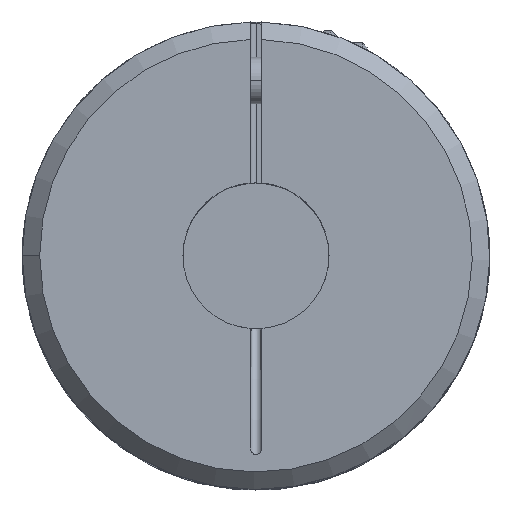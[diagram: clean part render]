
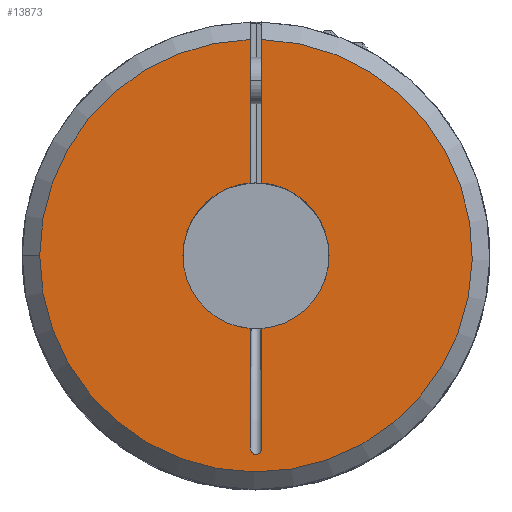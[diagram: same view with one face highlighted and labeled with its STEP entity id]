
A CAD part, top view. The second image highlights one B-rep face of the part: STEP entity #13873.
In plain terms, the highlighted planar face has unit normal (0, 0, 1).
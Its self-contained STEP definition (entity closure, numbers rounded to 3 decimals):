
#3308=CARTESIAN_POINT('',(0.,0.,57.));
#3309=DIRECTION('',(0.,0.,-1.));
#3310=DIRECTION('',(-0.08,-0.997,0.));
#3311=AXIS2_PLACEMENT_3D('',#3308,#3309,#3310);
#3313=DIRECTION('',(0.,-1.,0.));
#3314=VECTOR('',#3313,20.403);
#3315=CARTESIAN_POINT('',(-1.,-12.46,57.));
#3316=LINE('',#3315,#3314);
#3317=CARTESIAN_POINT('',(-1.,-32.863,57.));
#3318=CARTESIAN_POINT('',(-1.,-32.945,57.));
#3319=CARTESIAN_POINT('',(-0.985,-33.104,57.));
#3320=CARTESIAN_POINT('',(-0.92,-33.33,57.));
#3321=CARTESIAN_POINT('',(-0.817,-33.533,57.));
#3322=CARTESIAN_POINT('',(-0.685,-33.702,57.));
#3323=CARTESIAN_POINT('',(-0.53,-33.836,57.));
#3324=CARTESIAN_POINT('',(-0.361,-33.93,57.));
#3325=CARTESIAN_POINT('',(-0.182,-33.987,57.));
#3326=CARTESIAN_POINT('',(0.,-34.006,57.));
#3327=CARTESIAN_POINT('',(0.182,-33.987,57.));
#3328=CARTESIAN_POINT('',(0.361,-33.93,57.));
#3329=CARTESIAN_POINT('',(0.53,-33.836,57.));
#3330=CARTESIAN_POINT('',(0.685,-33.702,57.));
#3331=CARTESIAN_POINT('',(0.817,-33.533,57.));
#3332=CARTESIAN_POINT('',(0.92,-33.33,57.));
#3333=CARTESIAN_POINT('',(0.985,-33.104,57.));
#3334=CARTESIAN_POINT('',(1.,-32.945,57.));
#3335=CARTESIAN_POINT('',(1.,-32.863,57.));
#3337=DIRECTION('',(0.,-1.,0.));
#3338=VECTOR('',#3337,20.403);
#3339=CARTESIAN_POINT('',(1.,-12.46,57.));
#3340=LINE('',#3339,#3338);
#3341=CARTESIAN_POINT('',(0.,0.,57.));
#3342=DIRECTION('',(0.,0.,-1.));
#3343=DIRECTION('',(0.08,0.997,0.));
#3344=AXIS2_PLACEMENT_3D('',#3341,#3342,#3343);
#3346=DIRECTION('',(0.,-1.,0.));
#3347=VECTOR('',#3346,24.527);
#3348=CARTESIAN_POINT('',(1.,36.986,57.));
#3349=LINE('',#3348,#3347);
#3350=DIRECTION('',(0.,-1.,0.));
#3351=VECTOR('',#3350,24.527);
#3352=CARTESIAN_POINT('',(-1.,36.986,57.));
#3353=LINE('',#3352,#3351);
#3585=CARTESIAN_POINT('',(0.,0.,57.));
#3586=DIRECTION('',(0.,0.,-1.));
#3587=DIRECTION('',(-1.,0.,0.));
#3588=AXIS2_PLACEMENT_3D('',#3585,#3586,#3587);
#3611=CARTESIAN_POINT('',(0.,0.,57.));
#3612=DIRECTION('',(0.,0.,1.));
#3613=DIRECTION('',(-1.,0.,0.));
#3614=AXIS2_PLACEMENT_3D('',#3611,#3612,#3613);
#7852=VERTEX_POINT('',#3317);
#7853=VERTEX_POINT('',#3335);
#7862=CARTESIAN_POINT('',(-37.,0.,57.));
#7863=CARTESIAN_POINT('',(-1.,36.986,57.));
#7864=VERTEX_POINT('',#7862);
#7865=VERTEX_POINT('',#7863);
#7872=CARTESIAN_POINT('',(1.,36.986,57.));
#7873=VERTEX_POINT('',#7872);
#7926=CARTESIAN_POINT('',(-1.,-12.46,57.));
#7927=CARTESIAN_POINT('',(-1.,12.46,57.));
#7928=VERTEX_POINT('',#7926);
#7929=VERTEX_POINT('',#7927);
#7930=CARTESIAN_POINT('',(1.,12.46,57.));
#7931=CARTESIAN_POINT('',(1.,-12.46,57.));
#7932=VERTEX_POINT('',#7930);
#7933=VERTEX_POINT('',#7931);
#13851=CARTESIAN_POINT('',(0.,0.,57.));
#13852=DIRECTION('',(0.,0.,-1.));
#13853=DIRECTION('',(1.,0.,0.));
#13854=AXIS2_PLACEMENT_3D('',#13851,#13852,#13853);
#13855=PLANE('',#13854);
#13856=ORIENTED_EDGE('',*,*,#13653,.F.);
#13858=ORIENTED_EDGE('',*,*,#13857,.T.);
#13860=ORIENTED_EDGE('',*,*,#13859,.T.);
#13862=ORIENTED_EDGE('',*,*,#13861,.F.);
#13863=ORIENTED_EDGE('',*,*,#13645,.F.);
#13865=ORIENTED_EDGE('',*,*,#13864,.F.);
#13867=ORIENTED_EDGE('',*,*,#13866,.F.);
#13869=ORIENTED_EDGE('',*,*,#13868,.T.);
#13870=ORIENTED_EDGE('',*,*,#13822,.T.);
#13871=EDGE_LOOP('',(#13856,#13858,#13860,#13862,#13863,#13865,#13867,#13869,
#13870));
#13872=FACE_OUTER_BOUND('',#13871,.F.);
#13873=ADVANCED_FACE('',(#13872),#13855,.F.);
#3312=CIRCLE('',#3311,12.5);
#3336=B_SPLINE_CURVE_WITH_KNOTS('',3,(#3317,#3318,#3319,#3320,#3321,#3322,#3323,
#3324,#3325,#3326,#3327,#3328,#3329,#3330,#3331,#3332,#3333,#3334,#3335),
.UNSPECIFIED.,.F.,.F.,(4,1,1,1,1,1,1,1,1,1,1,1,1,1,1,1,4),(0.,0.063,0.125,
0.188,0.25,0.313,0.375,0.438,0.5,0.563,0.625,0.688,
0.75,0.813,0.875,0.938,1.),.UNSPECIFIED.);
#3345=CIRCLE('',#3344,12.5);
#3589=CIRCLE('',#3588,37.);
#3615=CIRCLE('',#3614,37.);
#13645=EDGE_CURVE('',#7932,#7933,#3345,.T.);
#13653=EDGE_CURVE('',#7928,#7929,#3312,.T.);
#13822=EDGE_CURVE('',#7865,#7929,#3353,.T.);
#13857=EDGE_CURVE('',#7928,#7852,#3316,.T.);
#13859=EDGE_CURVE('',#7852,#7853,#3336,.T.);
#13861=EDGE_CURVE('',#7933,#7853,#3340,.T.);
#13864=EDGE_CURVE('',#7873,#7932,#3349,.T.);
#13866=EDGE_CURVE('',#7864,#7873,#3615,.T.);
#13868=EDGE_CURVE('',#7864,#7865,#3589,.T.);
